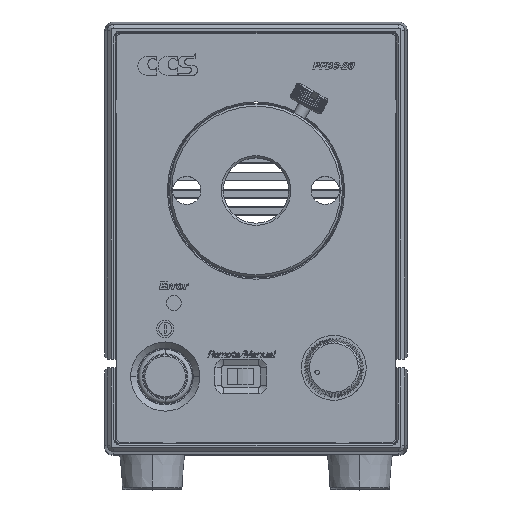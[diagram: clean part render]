
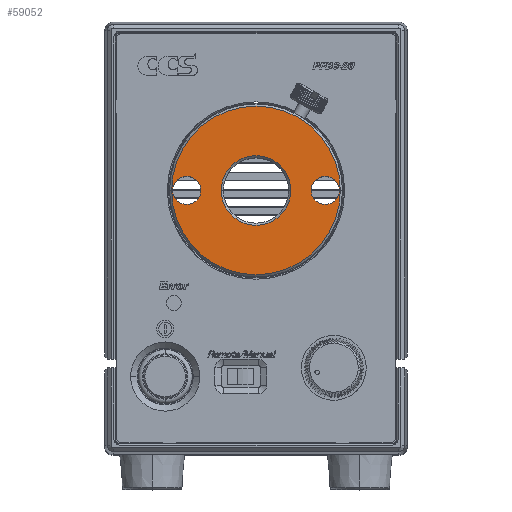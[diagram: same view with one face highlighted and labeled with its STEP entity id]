
A CAD part, top view. The second image highlights one B-rep face of the part: STEP entity #59052.
In plain terms, the highlighted planar face has unit normal (0, 0, 1).
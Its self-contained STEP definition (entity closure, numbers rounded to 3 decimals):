
#170 = EDGE_CURVE ( 'NONE', #5644, #74606, #50752, .T. ) ;
#546 = DIRECTION ( 'NONE',  ( 1., 0., 0. ) ) ;
#4250 = ORIENTED_EDGE ( 'NONE', *, *, #22378, .F. ) ;
#4585 = CIRCLE ( 'NONE', #53025, 8.05 ) ;
#4716 = CIRCLE ( 'NONE', #41778, 3.25 ) ;
#4741 = ORIENTED_EDGE ( 'NONE', *, *, #32214, .F. ) ;
#5418 = DIRECTION ( 'NONE',  ( 0., 0., 1. ) ) ;
#5625 = EDGE_LOOP ( 'NONE', ( #30320, #54282 ) ) ;
#5644 = VERTEX_POINT ( 'NONE', #20379 ) ;
#5750 = CIRCLE ( 'NONE', #75724, 3.25 ) ;
#6486 = AXIS2_PLACEMENT_3D ( 'NONE', #52140, #9667, #46266 ) ;
#6829 = AXIS2_PLACEMENT_3D ( 'NONE', #9494, #52480, #27047 ) ;
#7231 = DIRECTION ( 'NONE',  ( 0., 0., 1. ) ) ;
#9217 = AXIS2_PLACEMENT_3D ( 'NONE', #25529, #37863, #546 ) ;
#9494 = CARTESIAN_POINT ( 'NONE',  ( 0., 11., 88.001 ) ) ;
#9667 = DIRECTION ( 'NONE',  ( 0., 0., 1. ) ) ;
#10191 = EDGE_CURVE ( 'NONE', #68874, #38992, #4716, .T. ) ;
#12273 = ORIENTED_EDGE ( 'NONE', *, *, #170, .T. ) ;
#15410 = CIRCLE ( 'NONE', #6486, 3.25 ) ;
#20379 = CARTESIAN_POINT ( 'NONE',  ( 8.05, 11., 88.001 ) ) ;
#22378 = EDGE_CURVE ( 'NONE', #54849, #52180, #5750, .T. ) ;
#23016 = DIRECTION ( 'NONE',  ( -1., 0., 0. ) ) ;
#23155 = AXIS2_PLACEMENT_3D ( 'NONE', #73186, #36413, #23016 ) ;
#23191 = FACE_OUTER_BOUND ( 'NONE', #49432, .T. ) ;
#24397 = DIRECTION ( 'NONE',  ( 0., 0., -1. ) ) ;
#25529 = CARTESIAN_POINT ( 'NONE',  ( -16., 11., 88.001 ) ) ;
#26618 = CARTESIAN_POINT ( 'NONE',  ( -16., 11., 88.001 ) ) ;
#27047 = DIRECTION ( 'NONE',  ( -1., 0., 0. ) ) ;
#30023 = DIRECTION ( 'NONE',  ( 0., 0., -1. ) ) ;
#30285 = PLANE ( 'NONE',  #23155 ) ;
#30320 = ORIENTED_EDGE ( 'NONE', *, *, #67190, .F. ) ;
#32214 = EDGE_CURVE ( 'NONE', #52180, #54849, #67422, .T. ) ;
#32928 = ORIENTED_EDGE ( 'NONE', *, *, #41180, .T. ) ;
#35035 = AXIS2_PLACEMENT_3D ( 'NONE', #79283, #5418, #67230 ) ;
#36413 = DIRECTION ( 'NONE',  ( 0., 0., -1. ) ) ;
#36721 = EDGE_LOOP ( 'NONE', ( #12273, #51791 ) ) ;
#36926 = EDGE_CURVE ( 'NONE', #74606, #5644, #4585, .T. ) ;
#36973 = DIRECTION ( 'NONE',  ( -1., 0., 0. ) ) ;
#37863 = DIRECTION ( 'NONE',  ( 0., 0., 1. ) ) ;
#38467 = CARTESIAN_POINT ( 'NONE',  ( 19.5, 11., 88.001 ) ) ;
#38992 = VERTEX_POINT ( 'NONE', #46092 ) ;
#39512 = FACE_BOUND ( 'NONE', #36721, .T. ) ;
#41180 = EDGE_CURVE ( 'NONE', #43042, #79485, #72850, .T. ) ;
#41778 = AXIS2_PLACEMENT_3D ( 'NONE', #66869, #54814, #42975 ) ;
#42655 = CARTESIAN_POINT ( 'NONE',  ( -8.05, 11., 88.001 ) ) ;
#42975 = DIRECTION ( 'NONE',  ( 1., 0., 0. ) ) ;
#43042 = VERTEX_POINT ( 'NONE', #38467 ) ;
#44318 = CARTESIAN_POINT ( 'NONE',  ( -19.25, 11., 88.001 ) ) ;
#46092 = CARTESIAN_POINT ( 'NONE',  ( 19.25, 11., 88.001 ) ) ;
#46266 = DIRECTION ( 'NONE',  ( 1., 0., 0. ) ) ;
#47173 = EDGE_CURVE ( 'NONE', #79485, #43042, #74834, .T. ) ;
#49432 = EDGE_LOOP ( 'NONE', ( #56048, #32928 ) ) ;
#50752 = CIRCLE ( 'NONE', #70079, 8.05 ) ;
#51546 = CARTESIAN_POINT ( 'NONE',  ( -19.5, 11., 88.001 ) ) ;
#51791 = ORIENTED_EDGE ( 'NONE', *, *, #36926, .T. ) ;
#52140 = CARTESIAN_POINT ( 'NONE',  ( 16., 11., 88.001 ) ) ;
#52180 = VERTEX_POINT ( 'NONE', #74372 ) ;
#52480 = DIRECTION ( 'NONE',  ( 0., 0., 1. ) ) ;
#53025 = AXIS2_PLACEMENT_3D ( 'NONE', #60551, #30023, #79071 ) ;
#54282 = ORIENTED_EDGE ( 'NONE', *, *, #10191, .F. ) ;
#54814 = DIRECTION ( 'NONE',  ( 0., 0., 1. ) ) ;
#54849 = VERTEX_POINT ( 'NONE', #44318 ) ;
#55824 = FACE_BOUND ( 'NONE', #75345, .T. ) ;
#56048 = ORIENTED_EDGE ( 'NONE', *, *, #47173, .T. ) ;
#56964 = DIRECTION ( 'NONE',  ( 1., 0., 0. ) ) ;
#59052 = ADVANCED_FACE ( 'NONE', ( #72177, #55824, #39512, #23191 ), #30285, .F. ) ;
#60551 = CARTESIAN_POINT ( 'NONE',  ( 0., 11., 88.001 ) ) ;
#61158 = CARTESIAN_POINT ( 'NONE',  ( 0., 11., 88.001 ) ) ;
#63212 = CARTESIAN_POINT ( 'NONE',  ( 12.75, 11., 88.001 ) ) ;
#66869 = CARTESIAN_POINT ( 'NONE',  ( 16., 11., 88.001 ) ) ;
#67190 = EDGE_CURVE ( 'NONE', #38992, #68874, #15410, .T. ) ;
#67230 = DIRECTION ( 'NONE',  ( -1., 0., 0. ) ) ;
#67422 = CIRCLE ( 'NONE', #9217, 3.25 ) ;
#68874 = VERTEX_POINT ( 'NONE', #63212 ) ;
#70079 = AXIS2_PLACEMENT_3D ( 'NONE', #61158, #24397, #36973 ) ;
#72177 = FACE_BOUND ( 'NONE', #5625, .T. ) ;
#72850 = CIRCLE ( 'NONE', #6829, 19.5 ) ;
#73186 = CARTESIAN_POINT ( 'NONE',  ( 0., 18.55, 88.001 ) ) ;
#74372 = CARTESIAN_POINT ( 'NONE',  ( -12.75, 11., 88.001 ) ) ;
#74606 = VERTEX_POINT ( 'NONE', #42655 ) ;
#74834 = CIRCLE ( 'NONE', #35035, 19.5 ) ;
#75345 = EDGE_LOOP ( 'NONE', ( #4741, #4250 ) ) ;
#75724 = AXIS2_PLACEMENT_3D ( 'NONE', #26618, #7231, #56964 ) ;
#79071 = DIRECTION ( 'NONE',  ( -1., 0., 0. ) ) ;
#79283 = CARTESIAN_POINT ( 'NONE',  ( 0., 11., 88.001 ) ) ;
#79485 = VERTEX_POINT ( 'NONE', #51546 ) ;
